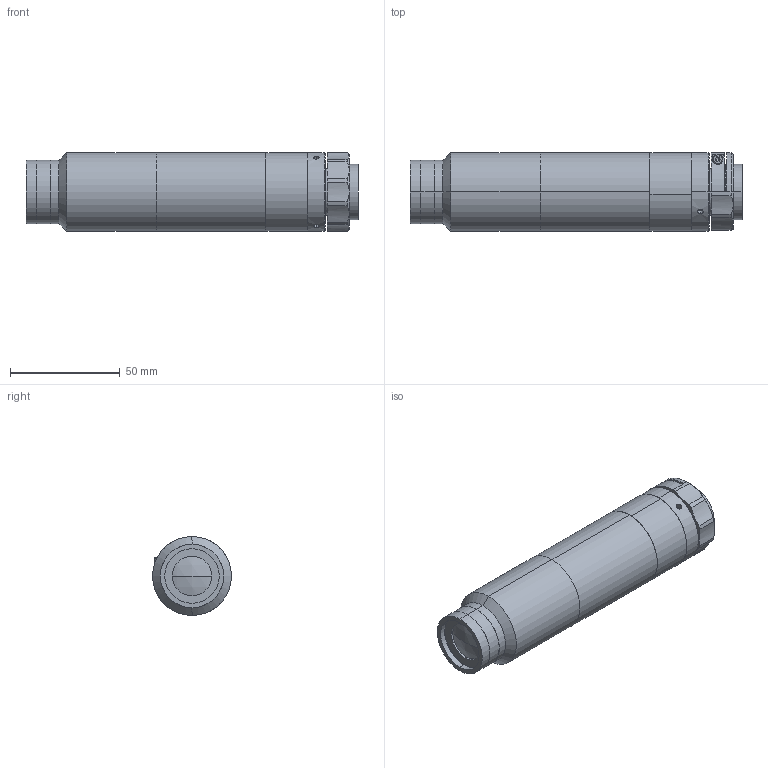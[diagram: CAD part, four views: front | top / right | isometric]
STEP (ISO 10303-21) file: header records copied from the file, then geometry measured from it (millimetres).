
FILE_DESCRIPTION (( 'STEP AP203' ), '1' );
FILE_NAME ('XF-MH09X133.STEP', '2020-08-24T07:11:07', ( 'canrill-02' ), ( '' ), 'SwSTEP 2.0', 'SolidWorks 2014', '' );
FILE_SCHEMA (( 'CONFIG_CONTROL_DESIGN' ));
Length unit declared in the file: millimetre
Products named in the file (1): XF-MH09X133
Bounding box: 151.5 x 36 x 36 mm (x, y, z)
Surface area: 23148.5 mm2 (no closed solid volume)
Topology: 0 solids, 12 shells, 103 faces, 272 edges, 184 vertices
Faces by surface type: cylinder 49, plane 35, cone 15, sphere 2, torus 2
Entity records: 3573 total; most frequent: CARTESIAN_POINT 879, DIRECTION 601, ORIENTED_EDGE 464, EDGE_CURVE 270, AXIS2_PLACEMENT_3D 250, VERTEX_POINT 184, CIRCLE 146, EDGE_LOOP 128
